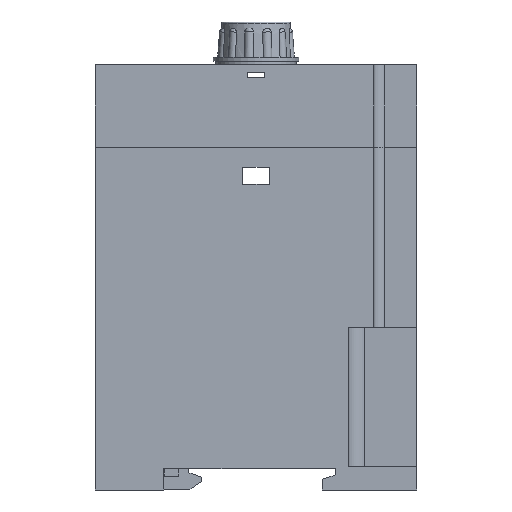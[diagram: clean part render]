
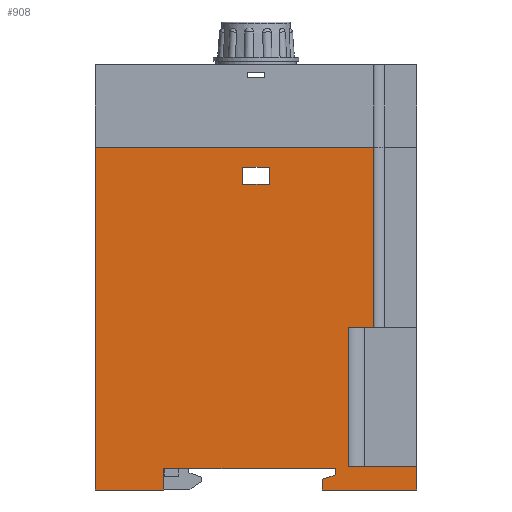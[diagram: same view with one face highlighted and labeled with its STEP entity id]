
A CAD part, left-side view. The second image highlights one B-rep face of the part: STEP entity #908.
In plain terms, the highlighted planar face has unit normal (-1, 0, 0).
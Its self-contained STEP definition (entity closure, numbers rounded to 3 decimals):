
#908=ADVANCED_FACE('',(#19047,#19049),#19051,.T.);
#19047=FACE_BOUND('',#19048,.T.);
#19048=EDGE_LOOP('',(#38387,#38388,#38389,#38390,#38391,#38392,#38393,#38394,#38395,
#38396,#38397,#38398,#38399,#38400));
#19049=FACE_BOUND('',#19050,.T.);
#19050=EDGE_LOOP('',(#38401,#38402,#38403,#38404));
#19051=PLANE('',#19052);
#19052=AXIS2_PLACEMENT_3D('',#19053,#19054,#19055);
#19053=CARTESIAN_POINT('',(-45.,0.,0.));
#19054=DIRECTION('',(-1.,0.,0.));
#19055=DIRECTION('',(0.,-1.,0.));
#38387=ORIENTED_EDGE('',*,*,#49680,.T.);
#38388=ORIENTED_EDGE('',*,*,#49642,.T.);
#38389=ORIENTED_EDGE('',*,*,#49681,.T.);
#38390=ORIENTED_EDGE('',*,*,#49682,.T.);
#38391=ORIENTED_EDGE('',*,*,#49683,.T.);
#38392=ORIENTED_EDGE('',*,*,#49684,.T.);
#38393=ORIENTED_EDGE('',*,*,#49685,.T.);
#38394=ORIENTED_EDGE('',*,*,#49686,.F.);
#38395=ORIENTED_EDGE('',*,*,#49687,.F.);
#38396=ORIENTED_EDGE('',*,*,#49661,.T.);
#38397=ORIENTED_EDGE('',*,*,#49688,.T.);
#38398=ORIENTED_EDGE('',*,*,#49616,.T.);
#38399=ORIENTED_EDGE('',*,*,#49689,.T.);
#38400=ORIENTED_EDGE('',*,*,#49690,.T.);
#38401=ORIENTED_EDGE('',*,*,#49587,.T.);
#38402=ORIENTED_EDGE('',*,*,#49594,.T.);
#38403=ORIENTED_EDGE('',*,*,#49600,.T.);
#38404=ORIENTED_EDGE('',*,*,#49604,.T.);
#49587=EDGE_CURVE('',#55252,#55250,#55253,.F.);
#49594=EDGE_CURVE('',#55250,#55262,#55264,.F.);
#49600=EDGE_CURVE('',#55262,#55272,#55274,.F.);
#49604=EDGE_CURVE('',#55272,#55252,#55278,.F.);
#49616=EDGE_CURVE('',#55302,#55300,#55303,.T.);
#49642=EDGE_CURVE('',#55339,#55346,#55348,.T.);
#49661=EDGE_CURVE('',#55384,#55382,#55385,.T.);
#49680=EDGE_CURVE('',#55418,#55339,#55419,.F.);
#49681=EDGE_CURVE('',#55346,#55420,#55421,.T.);
#49682=EDGE_CURVE('',#55420,#55422,#55423,.T.);
#49683=EDGE_CURVE('',#55422,#55424,#55425,.F.);
#49684=EDGE_CURVE('',#55424,#55426,#55427,.F.);
#49685=EDGE_CURVE('',#55426,#55428,#55429,.F.);
#49686=EDGE_CURVE('',#55430,#55428,#55431,.T.);
#49687=EDGE_CURVE('',#55384,#55430,#55432,.T.);
#49688=EDGE_CURVE('',#55382,#55302,#55433,.F.);
#49689=EDGE_CURVE('',#55300,#55434,#55435,.F.);
#49690=EDGE_CURVE('',#55434,#55418,#55436,.F.);
#55250=VERTEX_POINT('',#64684);
#55252=VERTEX_POINT('',#64688);
#55253=LINE('',#64689,#64690);
#55262=VERTEX_POINT('',#64710);
#55264=LINE('',#64714,#64715);
#55272=VERTEX_POINT('',#64732);
#55274=LINE('',#64736,#64737);
#55278=LINE('',#64748,#64749);
#55300=VERTEX_POINT('',#64792);
#55302=VERTEX_POINT('',#64796);
#55303=LINE('',#64797,#64798);
#55339=VERTEX_POINT('',#64875);
#55346=VERTEX_POINT('',#64890);
#55348=LINE('',#64894,#64895);
#55382=VERTEX_POINT('',#64964);
#55384=VERTEX_POINT('',#64968);
#55385=LINE('',#64969,#64970);
#55418=VERTEX_POINT('',#65040);
#55419=LINE('',#65041,#65042);
#55420=VERTEX_POINT('',#65044);
#55421=LINE('',#65045,#65046);
#55422=VERTEX_POINT('',#65048);
#55423=LINE('',#65049,#65050);
#55424=VERTEX_POINT('',#65052);
#55425=LINE('',#65053,#65054);
#55426=VERTEX_POINT('',#65056);
#55427=LINE('',#65057,#65058);
#55428=VERTEX_POINT('',#65060);
#55429=LINE('',#65061,#65062);
#55430=VERTEX_POINT('',#65064);
#55431=LINE('',#65065,#65066);
#55432=LINE('',#65068,#65069);
#55433=LINE('',#65071,#65072);
#55434=VERTEX_POINT('',#65074);
#55435=LINE('',#65075,#65076);
#55436=LINE('',#65078,#65079);
#64684=CARTESIAN_POINT('',(-45.,-40.6,71.3));
#64688=CARTESIAN_POINT('',(-45.,-40.6,75.3));
#64689=CARTESIAN_POINT('',(-45.,-40.6,71.3));
#64690=VECTOR('',#64691,1.);
#64691=DIRECTION('',(0.,0.,1.));
#64710=CARTESIAN_POINT('',(-45.,-34.4,71.3));
#64714=CARTESIAN_POINT('',(-45.,-34.4,71.3));
#64715=VECTOR('',#64716,1.);
#64716=DIRECTION('',(0.,-1.,0.));
#64732=CARTESIAN_POINT('',(-45.,-34.4,75.3));
#64736=CARTESIAN_POINT('',(-45.,-34.4,75.3));
#64737=VECTOR('',#64738,1.);
#64738=DIRECTION('',(0.,0.,-1.));
#64748=CARTESIAN_POINT('',(-45.,-40.6,75.3));
#64749=VECTOR('',#64750,1.);
#64750=DIRECTION('',(0.,1.,0.));
#64792=CARTESIAN_POINT('',(-45.,-56.,5.005));
#64796=CARTESIAN_POINT('',(-45.,-16.,5.005));
#64797=CARTESIAN_POINT('',(-45.,-16.,5.005));
#64798=VECTOR('',#64799,1.);
#64799=DIRECTION('',(0.,-1.,0.));
#64875=CARTESIAN_POINT('',(-45.,-53.,0.));
#64890=CARTESIAN_POINT('',(-45.,-75.,0.));
#64894=CARTESIAN_POINT('',(-45.,-53.,0.));
#64895=VECTOR('',#64896,1.);
#64896=DIRECTION('',(0.,-1.,0.));
#64964=CARTESIAN_POINT('',(-45.,-16.,0.));
#64968=CARTESIAN_POINT('',(-45.,0.,0.));
#64969=CARTESIAN_POINT('',(-45.,0.,0.));
#64970=VECTOR('',#64971,1.);
#64971=DIRECTION('',(0.,-1.,0.));
#65040=CARTESIAN_POINT('',(-45.,-53.,2.505));
#65041=CARTESIAN_POINT('',(-45.,-53.,0.));
#65042=VECTOR('',#65043,1.);
#65043=DIRECTION('',(0.,0.,1.));
#65044=CARTESIAN_POINT('',(-45.,-75.,5.5));
#65045=CARTESIAN_POINT('',(-45.,-75.,0.));
#65046=VECTOR('',#65047,1.);
#65047=DIRECTION('',(0.,0.,1.));
#65048=CARTESIAN_POINT('',(-45.,-59.,5.5));
#65049=CARTESIAN_POINT('',(-45.,-75.,5.5));
#65050=VECTOR('',#65051,1.);
#65051=DIRECTION('',(0.,1.,0.));
#65052=CARTESIAN_POINT('',(-45.,-59.,38.));
#65053=CARTESIAN_POINT('',(-45.,-59.,38.));
#65054=VECTOR('',#65055,1.);
#65055=DIRECTION('',(0.,0.,-1.));
#65056=CARTESIAN_POINT('',(-45.,-65.,38.));
#65057=CARTESIAN_POINT('',(-45.,-65.,38.));
#65058=VECTOR('',#65059,1.);
#65059=DIRECTION('',(0.,1.,0.));
#65060=CARTESIAN_POINT('',(-45.,-65.,80.));
#65061=CARTESIAN_POINT('',(-45.,-65.,80.));
#65062=VECTOR('',#65063,1.);
#65063=DIRECTION('',(0.,0.,-1.));
#65064=CARTESIAN_POINT('',(-45.,0.,80.));
#65065=CARTESIAN_POINT('',(-45.,0.,80.));
#65066=VECTOR('',#65067,1.);
#65067=DIRECTION('',(0.,-1.,0.));
#65068=CARTESIAN_POINT('',(-45.,0.,0.));
#65069=VECTOR('',#65070,1.);
#65070=DIRECTION('',(0.,0.,1.));
#65071=CARTESIAN_POINT('',(-45.,-16.,5.005));
#65072=VECTOR('',#65073,1.);
#65073=DIRECTION('',(0.,0.,-1.));
#65074=CARTESIAN_POINT('',(-45.,-56.,3.505));
#65075=CARTESIAN_POINT('',(-45.,-56.,3.505));
#65076=VECTOR('',#65077,1.);
#65077=DIRECTION('',(0.,0.,1.));
#65078=CARTESIAN_POINT('',(-45.,-53.,2.505));
#65079=VECTOR('',#65080,1.);
#65080=DIRECTION('',(0.,-0.949,0.316));
